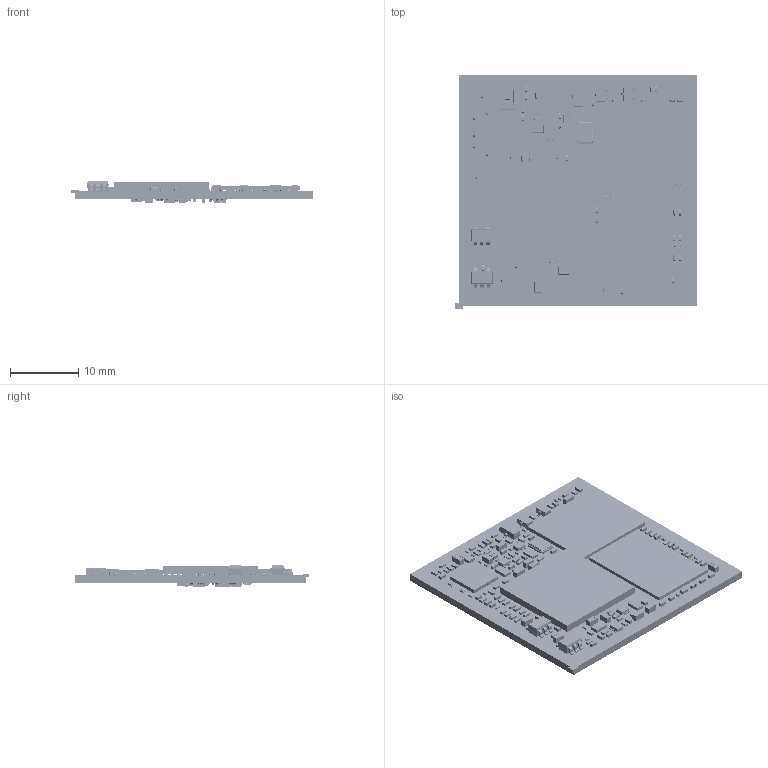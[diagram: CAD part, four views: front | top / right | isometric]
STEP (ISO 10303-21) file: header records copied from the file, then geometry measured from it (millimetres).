
FILE_DESCRIPTION(/* description */ ('PCB Design'),/* implementation_level */ '2;1');
FILE_NAME(/* name */ 'CM1126B-P_V2 3D',/* time_stamp */ '2026-05-07T18:37:44+08:00',/* author */ (''),/* organization */ (''),/* preprocessor_version */ 'ST-DEVELOPER v16',/* originating_system */ 'allegro_17.2S053',/* authorisation */ '');
FILE_SCHEMA (('AUTOMOTIVE_DESIGN { 1 0 10303 214 3 1 1 }'));
Length unit declared in the file: millimetre
Products named in the file (249): CM1126_V2; BOARD_OUTLINE; COMPONENTS; DIP144_34X35MM; C0201; TP_0R70; SOT_323; SOT_23; SOT_23_5; IND_201610; SOT563; BGA153-20-1414-ENIG; QFN_40_0P4_5P10; BGA409_14R00X14R00X0R90; BGA200_15R00X10R00X0R90; R0402; CRY4_3R20X2R50X0R80; C0603; C0402; User Library-User Library-0201_Cap; PTSP0003JA-A; CircuitWorks-SOT-23; User Library-SOT23-5-3; Fusion; Free-Models003; Assem1; core; Pad; 4E357751-62F2-4C9E-89FE-D179AAC9DFAF; 58673B8F-7CB6-4A58-80C6-4C79EC9FD135; 0; QFN 40 5x5 pitch 0_4_STEP; Extruded1; Free-Models1; Sphere1; User Library-BGA-EP9307; Board1; 352632017; 511157745; Part_147_15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
Assembly tree (730 placements, depth 7):
  CM1126_V2
    BOARD_OUTLINE
    COMPONENTS
      DIP144_34X35MM
      C0201  x74
        User Library-User Library-0201_Cap
      TP_0R70  x4
      SOT_323  x2
        PTSP0003JA-A
      SOT_23
        CircuitWorks-SOT-23
      SOT_23_5  x2
        User Library-SOT23-5-3
          Free-Models003
          Fusion
      IND_201610  x5
        Assem1
      SOT563  x4
        4E357751-62F2-4C9E-89FE-D179AAC9DFAF
      BGA153-20-1414-ENIG
        58673B8F-7CB6-4A58-80C6-4C79EC9FD135
      QFN_40_0P4_5P10
        0
        QFN 40 5x5 pitch 0_4_STEP
      BGA409_14R00X14R00X0R90
        User Library-BGA-EP9307
          Board1
          Free-Models1
            511157745  x272
              Sphere1
            352632017
              Extruded1
      BGA200_15R00X10R00X0R90
        User Library-IS46LQ32128A-062BLA
          Part_147
          Part_147_2
          Part_147_3
          Part_147_4
          Part_147_5
          Part_147_6
          Part_147_7
          Part_147_8
          Part_147_9
          Part_147_10
          Part_147_11
          Part_147_12
          Part_147_13
          Part_147_14
          Part_147_15
          Part_147_16
          Part_147_17
          Part_147_18
          Part_147_19
          Part_147_20
          Part_147_21
          Part_147_22
          Part_147_23
          Part_147_24
          Part_147_25
          Part_147_26
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Bounding box: 35.62 x 34.5 x 3.1 mm (x, y, z)
Volume: 539.9 mm3; surface area: 7794 mm2
Topology: 1577 solids, 1803 shells, 36812 faces, 89787 edges, 56440 vertices
Faces by surface type: bspline 23206, plane 9732, cylinder 2324, sphere 1550
Entity records: 101237 total; most frequent: CARTESIAN_POINT 29320, ORIENTED_EDGE 9595, DIRECTION 8369, EDGE_CURVE 4808, AXIS2_PLACEMENT_3D 3815, VERTEX_POINT 3371, EDGE_LOOP 2621, FACE_OUTER_BOUND 2434
